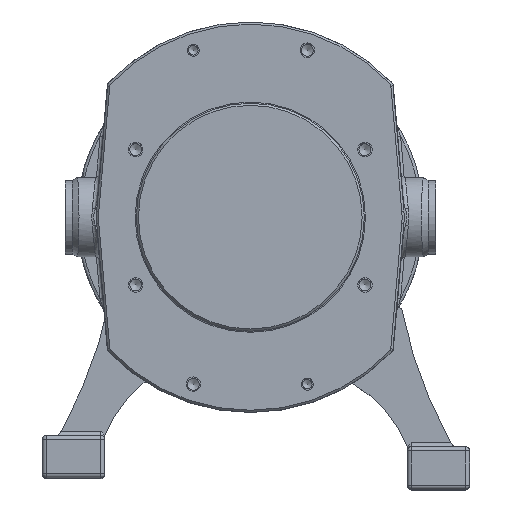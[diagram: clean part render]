
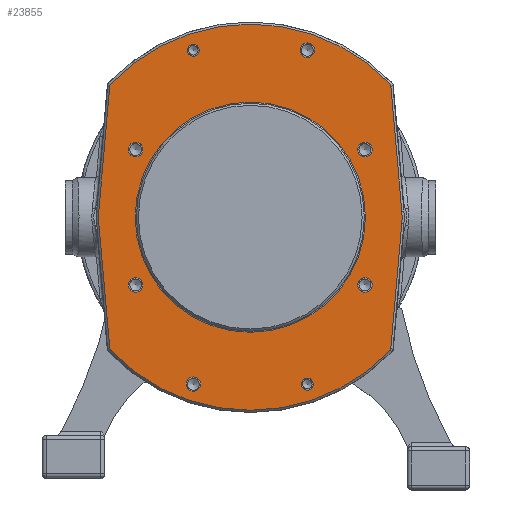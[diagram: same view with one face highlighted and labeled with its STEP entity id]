
A CAD part, top view. The second image highlights one B-rep face of the part: STEP entity #23855.
In plain terms, the highlighted planar face has unit normal (0, 0, 1) as drawn and (-1, 0, 0) by its records, which use the part's own axes.
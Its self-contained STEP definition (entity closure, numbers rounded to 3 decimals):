
#518=FACE_BOUND('',#5264,.T.);
#519=FACE_BOUND('',#5265,.T.);
#520=FACE_BOUND('',#5266,.T.);
#521=FACE_BOUND('',#5267,.T.);
#522=FACE_BOUND('',#5268,.T.);
#523=FACE_BOUND('',#5269,.T.);
#524=FACE_BOUND('',#5270,.T.);
#525=FACE_BOUND('',#5271,.T.);
#526=FACE_BOUND('',#5272,.T.);
#1736=CIRCLE('',#26038,80.8);
#1739=CIRCLE('',#26043,135.5);
#1740=CIRCLE('',#26044,3.5);
#1741=CIRCLE('',#26045,48.5);
#1742=CIRCLE('',#26046,3.5);
#1743=CIRCLE('',#26047,135.5);
#1744=CIRCLE('',#26048,3.5);
#1745=CIRCLE('',#26049,48.5);
#1746=CIRCLE('',#26050,3.5);
#1747=CIRCLE('',#26051,5.1);
#1748=CIRCLE('',#26052,5.1);
#1749=CIRCLE('',#26053,5.1);
#1750=CIRCLE('',#26054,5.1);
#1751=CIRCLE('',#26055,5.1);
#1752=CIRCLE('',#26056,5.1);
#1753=CIRCLE('',#26057,4.188);
#1754=CIRCLE('',#26058,4.188);
#2957=PLANE('',#26042);
#3706=FACE_OUTER_BOUND('',#5263,.T.);
#5263=EDGE_LOOP('',(#18506,#18507,#18508,#18509,#18510,#18511,#18512,#18513,
#18514,#18515,#18516,#18517));
#5264=EDGE_LOOP('',(#18518));
#5265=EDGE_LOOP('',(#18519));
#5266=EDGE_LOOP('',(#18520));
#5267=EDGE_LOOP('',(#18521));
#5268=EDGE_LOOP('',(#18522));
#5269=EDGE_LOOP('',(#18523));
#5270=EDGE_LOOP('',(#18524));
#5271=EDGE_LOOP('',(#18525));
#5272=EDGE_LOOP('',(#18526));
#6831=LINE('',#41013,#8078);
#6832=LINE('',#41017,#8079);
#6833=LINE('',#41025,#8080);
#6834=LINE('',#41029,#8081);
#8078=VECTOR('',#30454,10.);
#8079=VECTOR('',#30457,10.);
#8080=VECTOR('',#30464,10.);
#8081=VECTOR('',#30467,10.);
#10581=VERTEX_POINT('',#40998);
#10583=VERTEX_POINT('',#41007);
#10584=VERTEX_POINT('',#41008);
#10585=VERTEX_POINT('',#41010);
#10586=VERTEX_POINT('',#41012);
#10587=VERTEX_POINT('',#41014);
#10588=VERTEX_POINT('',#41016);
#10589=VERTEX_POINT('',#41018);
#10590=VERTEX_POINT('',#41020);
#10591=VERTEX_POINT('',#41022);
#10592=VERTEX_POINT('',#41024);
#10593=VERTEX_POINT('',#41026);
#10594=VERTEX_POINT('',#41028);
#10595=VERTEX_POINT('',#41031);
#10596=VERTEX_POINT('',#41033);
#10597=VERTEX_POINT('',#41035);
#10598=VERTEX_POINT('',#41037);
#10599=VERTEX_POINT('',#41039);
#10600=VERTEX_POINT('',#41041);
#10601=VERTEX_POINT('',#41043);
#10602=VERTEX_POINT('',#41045);
#13392=EDGE_CURVE('',#10581,#10581,#1736,.T.);
#13396=EDGE_CURVE('',#10583,#10584,#1739,.T.);
#13397=EDGE_CURVE('',#10585,#10583,#1740,.T.);
#13398=EDGE_CURVE('',#10586,#10585,#6831,.T.);
#13399=EDGE_CURVE('',#10587,#10586,#1741,.T.);
#13400=EDGE_CURVE('',#10588,#10587,#6832,.T.);
#13401=EDGE_CURVE('',#10589,#10588,#1742,.T.);
#13402=EDGE_CURVE('',#10590,#10589,#1743,.T.);
#13403=EDGE_CURVE('',#10591,#10590,#1744,.T.);
#13404=EDGE_CURVE('',#10592,#10591,#6833,.T.);
#13405=EDGE_CURVE('',#10593,#10592,#1745,.T.);
#13406=EDGE_CURVE('',#10594,#10593,#6834,.T.);
#13407=EDGE_CURVE('',#10584,#10594,#1746,.T.);
#13408=EDGE_CURVE('',#10595,#10595,#1747,.T.);
#13409=EDGE_CURVE('',#10596,#10596,#1748,.T.);
#13410=EDGE_CURVE('',#10597,#10597,#1749,.T.);
#13411=EDGE_CURVE('',#10598,#10598,#1750,.T.);
#13412=EDGE_CURVE('',#10599,#10599,#1751,.T.);
#13413=EDGE_CURVE('',#10600,#10600,#1752,.T.);
#13414=EDGE_CURVE('',#10601,#10601,#1753,.T.);
#13415=EDGE_CURVE('',#10602,#10602,#1754,.T.);
#18506=ORIENTED_EDGE('',*,*,#13396,.F.);
#18507=ORIENTED_EDGE('',*,*,#13397,.F.);
#18508=ORIENTED_EDGE('',*,*,#13398,.F.);
#18509=ORIENTED_EDGE('',*,*,#13399,.F.);
#18510=ORIENTED_EDGE('',*,*,#13400,.F.);
#18511=ORIENTED_EDGE('',*,*,#13401,.F.);
#18512=ORIENTED_EDGE('',*,*,#13402,.F.);
#18513=ORIENTED_EDGE('',*,*,#13403,.F.);
#18514=ORIENTED_EDGE('',*,*,#13404,.F.);
#18515=ORIENTED_EDGE('',*,*,#13405,.F.);
#18516=ORIENTED_EDGE('',*,*,#13406,.F.);
#18517=ORIENTED_EDGE('',*,*,#13407,.F.);
#18518=ORIENTED_EDGE('',*,*,#13408,.T.);
#18519=ORIENTED_EDGE('',*,*,#13409,.T.);
#18520=ORIENTED_EDGE('',*,*,#13410,.T.);
#18521=ORIENTED_EDGE('',*,*,#13411,.T.);
#18522=ORIENTED_EDGE('',*,*,#13412,.T.);
#18523=ORIENTED_EDGE('',*,*,#13413,.T.);
#18524=ORIENTED_EDGE('',*,*,#13414,.T.);
#18525=ORIENTED_EDGE('',*,*,#13415,.T.);
#18526=ORIENTED_EDGE('',*,*,#13392,.F.);
#23855=ADVANCED_FACE('',(#3706,#518,#519,#520,#521,#522,#523,#524,#525,
#526),#2957,.F.);
#26038=AXIS2_PLACEMENT_3D('',#41000,#30439,#30440);
#26042=AXIS2_PLACEMENT_3D('',#41006,#30448,#30449);
#26043=AXIS2_PLACEMENT_3D('',#41009,#30450,#30451);
#26044=AXIS2_PLACEMENT_3D('',#41011,#30452,#30453);
#26045=AXIS2_PLACEMENT_3D('',#41015,#30455,#30456);
#26046=AXIS2_PLACEMENT_3D('',#41019,#30458,#30459);
#26047=AXIS2_PLACEMENT_3D('',#41021,#30460,#30461);
#26048=AXIS2_PLACEMENT_3D('',#41023,#30462,#30463);
#26049=AXIS2_PLACEMENT_3D('',#41027,#30465,#30466);
#26050=AXIS2_PLACEMENT_3D('',#41030,#30468,#30469);
#26051=AXIS2_PLACEMENT_3D('',#41032,#30470,#30471);
#26052=AXIS2_PLACEMENT_3D('',#41034,#30472,#30473);
#26053=AXIS2_PLACEMENT_3D('',#41036,#30474,#30475);
#26054=AXIS2_PLACEMENT_3D('',#41038,#30476,#30477);
#26055=AXIS2_PLACEMENT_3D('',#41040,#30478,#30479);
#26056=AXIS2_PLACEMENT_3D('',#41042,#30480,#30481);
#26057=AXIS2_PLACEMENT_3D('',#41044,#30482,#30483);
#26058=AXIS2_PLACEMENT_3D('',#41046,#30484,#30485);
#30439=DIRECTION('center_axis',(-1.,0.,0.));
#30440=DIRECTION('ref_axis',(0.,-1.,0.));
#30448=DIRECTION('center_axis',(1.,0.,0.));
#30449=DIRECTION('ref_axis',(0.,0.,-1.));
#30450=DIRECTION('center_axis',(1.,0.,0.));
#30451=DIRECTION('ref_axis',(0.,0.684,-0.73));
#30452=DIRECTION('center_axis',(1.,0.,0.));
#30453=DIRECTION('ref_axis',(0.,0.414,-0.91));
#30454=DIRECTION('',(0.,0.996,0.087));
#30455=DIRECTION('center_axis',(1.,0.,0.));
#30456=DIRECTION('ref_axis',(0.,0.,-1.));
#30457=DIRECTION('',(0.,0.996,-0.087));
#30458=DIRECTION('center_axis',(1.,0.,0.));
#30459=DIRECTION('ref_axis',(0.,-0.414,-0.91));
#30460=DIRECTION('center_axis',(1.,0.,0.));
#30461=DIRECTION('ref_axis',(0.,-0.684,0.73));
#30462=DIRECTION('center_axis',(1.,0.,0.));
#30463=DIRECTION('ref_axis',(0.,-0.414,0.91));
#30464=DIRECTION('',(0.,-0.996,-0.087));
#30465=DIRECTION('center_axis',(1.,0.,0.));
#30466=DIRECTION('ref_axis',(0.,0.,1.));
#30467=DIRECTION('',(0.,-0.996,0.087));
#30468=DIRECTION('center_axis',(1.,0.,0.));
#30469=DIRECTION('ref_axis',(0.,0.414,0.91));
#30470=DIRECTION('center_axis',(1.,0.,0.));
#30471=DIRECTION('ref_axis',(0.,1.,0.));
#30472=DIRECTION('center_axis',(1.,0.,0.));
#30473=DIRECTION('ref_axis',(0.,1.,0.));
#30474=DIRECTION('center_axis',(1.,0.,0.));
#30475=DIRECTION('ref_axis',(0.,1.,0.));
#30476=DIRECTION('center_axis',(1.,0.,0.));
#30477=DIRECTION('ref_axis',(0.,1.,0.));
#30478=DIRECTION('center_axis',(1.,0.,0.));
#30479=DIRECTION('ref_axis',(0.,1.,0.));
#30480=DIRECTION('center_axis',(1.,0.,0.));
#30481=DIRECTION('ref_axis',(0.,1.,0.));
#30482=DIRECTION('center_axis',(1.,0.,0.));
#30483=DIRECTION('ref_axis',(0.,1.,0.));
#30484=DIRECTION('center_axis',(1.,0.,0.));
#30485=DIRECTION('ref_axis',(0.,1.,0.));
#40998=CARTESIAN_POINT('',(0.,0.,80.8));
#41000=CARTESIAN_POINT('Origin',(0.,0.,0.));
#41006=CARTESIAN_POINT('Origin',(0.,0.,0.));
#41007=CARTESIAN_POINT('',(0.,93.894,-97.695));
#41008=CARTESIAN_POINT('',(0.,93.894,97.695));
#41009=CARTESIAN_POINT('Origin',(0.,0.,0.));
#41010=CARTESIAN_POINT('',(0.,91.773,-98.658));
#41011=CARTESIAN_POINT('Origin',(0.,91.468,-95.171));
#41012=CARTESIAN_POINT('',(0.,4.227,-106.317));
#41013=CARTESIAN_POINT('',(0.,4.566,-106.287));
#41014=CARTESIAN_POINT('',(0.,-4.227,-106.317));
#41015=CARTESIAN_POINT('Origin',(0.,0.,-58.002));
#41016=CARTESIAN_POINT('',(0.,-91.773,-98.658));
#41017=CARTESIAN_POINT('',(0.,-51.388,-102.191));
#41018=CARTESIAN_POINT('',(0.,-93.894,-97.695));
#41019=CARTESIAN_POINT('Origin',(0.,-91.468,-95.171));
#41020=CARTESIAN_POINT('',(0.,-93.894,97.695));
#41021=CARTESIAN_POINT('Origin',(0.,0.,0.));
#41022=CARTESIAN_POINT('',(0.,-91.773,98.658));
#41023=CARTESIAN_POINT('Origin',(0.,-91.468,95.171));
#41024=CARTESIAN_POINT('',(0.,-4.227,106.317));
#41025=CARTESIAN_POINT('',(0.,-4.566,106.287));
#41026=CARTESIAN_POINT('',(0.,4.227,106.317));
#41027=CARTESIAN_POINT('Origin',(0.,0.,58.002));
#41028=CARTESIAN_POINT('',(0.,91.773,98.658));
#41029=CARTESIAN_POINT('',(0.,51.388,102.191));
#41030=CARTESIAN_POINT('Origin',(0.,91.468,95.171));
#41031=CARTESIAN_POINT('',(0.,112.07,40.));
#41032=CARTESIAN_POINT('Origin',(0.,117.17,40.));
#41033=CARTESIAN_POINT('',(0.,-52.6,80.45));
#41034=CARTESIAN_POINT('Origin',(0.,-47.5,80.45));
#41035=CARTESIAN_POINT('',(0.,42.4,-80.45));
#41036=CARTESIAN_POINT('Origin',(0.,47.5,-80.45));
#41037=CARTESIAN_POINT('',(0.,-52.6,-80.45));
#41038=CARTESIAN_POINT('Origin',(0.,-47.5,-80.45));
#41039=CARTESIAN_POINT('',(0.,42.4,80.45));
#41040=CARTESIAN_POINT('Origin',(0.,47.5,80.45));
#41041=CARTESIAN_POINT('',(0.,-122.27,-40.));
#41042=CARTESIAN_POINT('Origin',(0.,-117.17,-40.));
#41043=CARTESIAN_POINT('',(0.,112.982,-40.));
#41044=CARTESIAN_POINT('Origin',(0.,117.17,-40.));
#41045=CARTESIAN_POINT('',(0.,-121.358,40.));
#41046=CARTESIAN_POINT('Origin',(0.,-117.17,40.));
